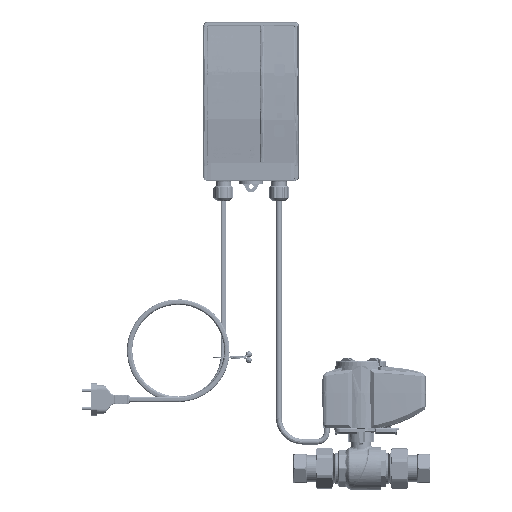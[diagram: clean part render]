
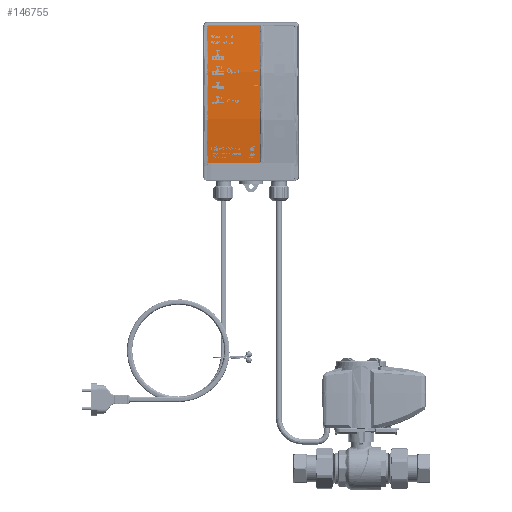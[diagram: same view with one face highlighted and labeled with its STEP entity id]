
A CAD part, front view. The second image highlights one B-rep face of the part: STEP entity #146755.
In plain terms, the highlighted cylindrical face has radius 499 mm (diameter 998 mm), a partial arc.
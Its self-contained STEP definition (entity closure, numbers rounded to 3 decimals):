
#349 = CARTESIAN_POINT ( 'NONE',  ( 90.497, -493.406, 55. ) ) ;
#2989 = EDGE_CURVE ( 'NONE', #319190, #245514, #68707, .T. ) ;
#14184 = DIRECTION ( 'NONE',  ( 0., -1., 0. ) ) ;
#15667 = DIRECTION ( 'NONE',  ( 0., -1., 0. ) ) ;
#15787 = CARTESIAN_POINT ( 'NONE',  ( 90.497, -493.406, 0. ) ) ;
#21896 = ORIENTED_EDGE ( 'NONE', *, *, #338429, .F. ) ;
#42927 = VECTOR ( 'NONE', #506516, 1000. ) ;
#49754 = CARTESIAN_POINT ( 'NONE',  ( 160.997, 0.589, 0. ) ) ;
#51819 = EDGE_LOOP ( 'NONE', ( #372364, #59299, #21896, #500778 ) ) ;
#59299 = ORIENTED_EDGE ( 'NONE', *, *, #123545, .F. ) ;
#68707 = CIRCLE ( 'NONE', #371257, 499. ) ;
#100426 = VECTOR ( 'NONE', #224500, 1000. ) ;
#123545 = EDGE_CURVE ( 'NONE', #556511, #230696, #134299, .T. ) ;
#134299 = CIRCLE ( 'NONE', #511305, 499. ) ;
#146755 = ADVANCED_FACE ( 'NONE', ( #240858 ), #374118, .T. ) ;
#196338 = DIRECTION ( 'NONE',  ( 0., 0., 1. ) ) ;
#224500 = DIRECTION ( 'NONE',  ( 0., 0., 1. ) ) ;
#229943 = AXIS2_PLACEMENT_3D ( 'NONE', #15787, #196338, #368269 ) ;
#230696 = VERTEX_POINT ( 'NONE', #530688 ) ;
#240858 = FACE_OUTER_BOUND ( 'NONE', #51819, .T. ) ;
#245514 = VERTEX_POINT ( 'NONE', #488071 ) ;
#275790 = LINE ( 'NONE', #500700, #42927 ) ;
#299769 = EDGE_CURVE ( 'NONE', #319190, #230696, #275790, .T. ) ;
#319190 = VERTEX_POINT ( 'NONE', #566601 ) ;
#338429 = EDGE_CURVE ( 'NONE', #245514, #556511, #413877, .T. ) ;
#368269 = DIRECTION ( 'NONE',  ( 0., -1., 0. ) ) ;
#371257 = AXIS2_PLACEMENT_3D ( 'NONE', #379861, #471655, #15667 ) ;
#372364 = ORIENTED_EDGE ( 'NONE', *, *, #299769, .T. ) ;
#374118 = CYLINDRICAL_SURFACE ( 'NONE', #229943, 499. ) ;
#379861 = CARTESIAN_POINT ( 'NONE',  ( 90.497, -493.406, 0. ) ) ;
#413877 = LINE ( 'NONE', #49754, #100426 ) ;
#471655 = DIRECTION ( 'NONE',  ( 0., 0., -1. ) ) ;
#481459 = CARTESIAN_POINT ( 'NONE',  ( 160.997, 0.589, 55. ) ) ;
#488071 = CARTESIAN_POINT ( 'NONE',  ( 160.997, 0.589, 0. ) ) ;
#500700 = CARTESIAN_POINT ( 'NONE',  ( 15.99, 0., 0. ) ) ;
#500778 = ORIENTED_EDGE ( 'NONE', *, *, #2989, .F. ) ;
#506516 = DIRECTION ( 'NONE',  ( 0., 0., 1. ) ) ;
#508642 = DIRECTION ( 'NONE',  ( 0., 0., 1. ) ) ;
#511305 = AXIS2_PLACEMENT_3D ( 'NONE', #349, #508642, #14184 ) ;
#530688 = CARTESIAN_POINT ( 'NONE',  ( 15.99, 0., 55. ) ) ;
#556511 = VERTEX_POINT ( 'NONE', #481459 ) ;
#566601 = CARTESIAN_POINT ( 'NONE',  ( 15.99, 0., 0. ) ) ;
